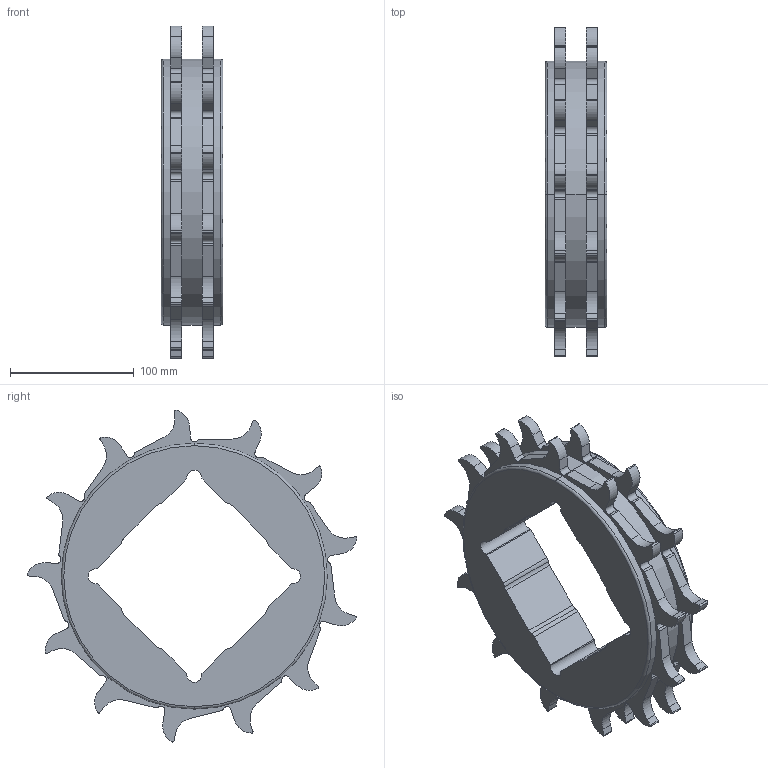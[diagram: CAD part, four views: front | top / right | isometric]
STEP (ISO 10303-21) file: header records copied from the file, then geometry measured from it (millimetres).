
FILE_DESCRIPTION((''),'2;1');
FILE_NAME('T1086','2020-11-28T14:58:00',('MTH'),(''),'CREO PARAMETRIC BY PTC INC, 2020342','CREO PARAMETRIC BY PTC INC, 2020342','');
FILE_SCHEMA(('AUTOMOTIVE_DESIGN { 1 0 10303 214 1 1 1 1 }'));
Length unit declared in the file: millimetre
Products named in the file (1): T1086
Bounding box: 50 x 266.73 x 268.4 mm (x, y, z)
Volume: 1186868.8 mm3; surface area: 187436 mm2
Topology: 1 solids, 5 shells, 495 faces, 1448 edges, 978 vertices
Faces by surface type: plane 309, cylinder 174, cone 8, torus 4
Entity records: 22896 total; most frequent: CARTESIAN_POINT 4150, DIRECTION 2937, ORIENTED_EDGE 2802, PRESENTATION_STYLE_ASSIGNMENT 1469, STYLED_ITEM 1453, CURVE_STYLE 1452, EDGE_CURVE 1401, VECTOR 1054
